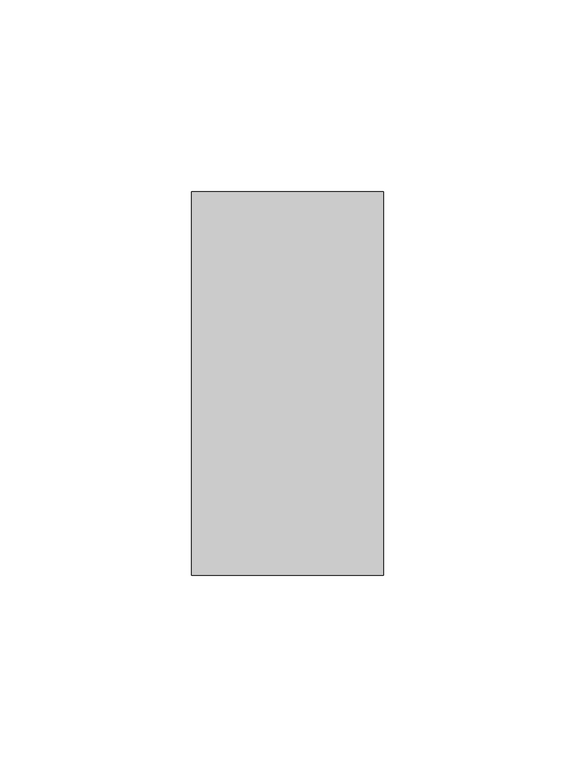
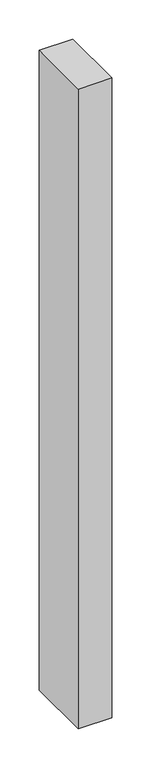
"""IFC4 building model written with IfcOpenShell, lengths in millimetres: member geometry, Прямоугольный импост : 50х100."""

from ifc_helpers import new_model, si_unit, frame, origin, place, context, project, spatial, polyline, outline, extrude, source, transform, mapped, element, save


def member_60e476da(model_context):
    return source(origin(), model_context, "Body", "SweptSolid", [
        extrude(outline(polyline([(0.0, 50.0), (0.0, -50.0), (-50.0, -50.0), (-50.0, 50.0), (0.0, 50.0)])), frame((0.0, 0.0, -1000.0000003), z_axis=(0.0, 0.0, 1.0), x_axis=(1.0, 0.0, 0.0)), (0.0, 0.0, 1.0), 1000.0000003),
    ])


if __name__ == "__main__":
    model = new_model("IFC4")
    model_context = context("Model", 3, world=origin())
    ifc_project = project(units=[si_unit("LENGTHUNIT", "METRE", prefix="MILLI")], contexts=[model_context])
    site = spatial("IfcSite", under=ifc_project)
    building = spatial("IfcBuilding", under=site)
    placement = place(None, origin())
    member_shape = member_60e476da(model_context)
    element("IfcMember", 1, ObjectType="Прямоугольный импост : 50х100", at=placement, inside=building, context=model_context, shape_type="MappedRepresentation", body=[
        mapped(member_shape, transform((0.0, 0.0, 0.0), x_axis=(1.0, 0.0, 0.0), y_axis=(0.0, 1.0, 0.0), z_axis=(0.0, 0.0, 1.0))),
    ])
    save(model, "model.ifc")
